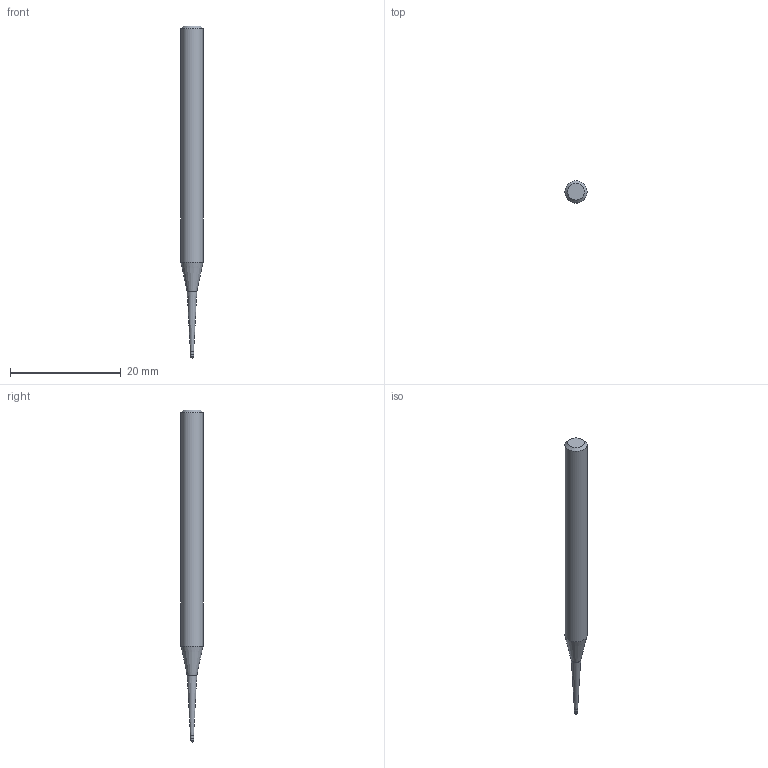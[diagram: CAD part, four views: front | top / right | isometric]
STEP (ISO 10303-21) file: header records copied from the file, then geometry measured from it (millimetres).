
FILE_DESCRIPTION((''),'2;1');
FILE_NAME('C:\Users\nsx150\AppData\Local\Temp\Mastercam 2021\SNAKH10GOD\TEMP.step','2021-10-21T13:31:42',(''),(''),'STEP Write','Mastercam 2021 ... CNC Software, Inc.','');
FILE_SCHEMA(('AUTOMOTIVE_DESIGN'));
Length unit declared in the file: millimetre
Products named in the file (1): None
Bounding box: 4 x 4 x 60 mm (x, y, z)
Volume: 583.5 mm3; surface area: 635.9 mm2
Topology: 2 solids, 2 shells, 10 faces, 16 edges, 9 vertices
Faces by surface type: plane 3, cylinder 3, cone 3, sphere 1
Full cylindrical faces by diameter (mm): 0.585 x1, 0.6 x1, 4 x1
Entity records: 232 total; most frequent: DIRECTION 40, CARTESIAN_POINT 28, AXIS2_PLACEMENT_3D 20, ORIENTED_EDGE 16, EDGE_LOOP 16, STYLED_ITEM 13, ADVANCED_FACE 10, FACE_BOUND 9
